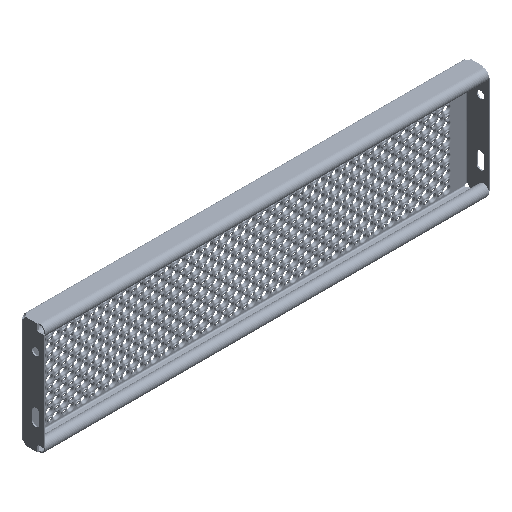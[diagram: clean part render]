
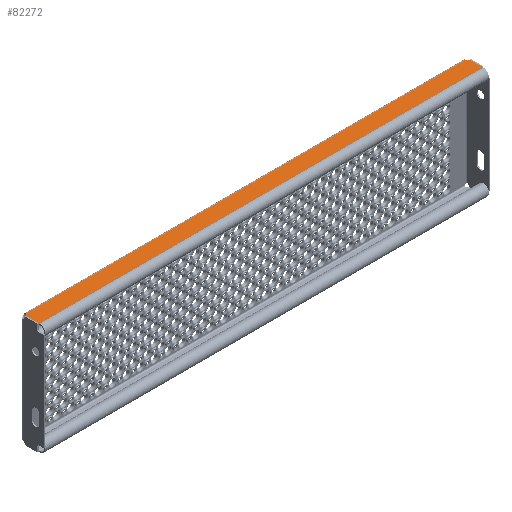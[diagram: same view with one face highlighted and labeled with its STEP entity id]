
A CAD part, isometric view. The second image highlights one B-rep face of the part: STEP entity #82272.
In plain terms, the highlighted planar face has unit normal (0, 0, 1).
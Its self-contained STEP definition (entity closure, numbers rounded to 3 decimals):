
#3785 = DIRECTION ( 'NONE',  ( 0., 0., -1. ) ) ;
#13837 = VECTOR ( 'NONE', #173732, 1000. ) ;
#23989 = CARTESIAN_POINT ( 'NONE',  ( 397.99, -7.185, 100. ) ) ;
#25326 = CARTESIAN_POINT ( 'NONE',  ( -399., -2.288, 100. ) ) ;
#27790 = VERTEX_POINT ( 'NONE', #274040 ) ;
#28004 = VERTEX_POINT ( 'NONE', #222207 ) ;
#29243 = CARTESIAN_POINT ( 'NONE',  ( 397.99, -31.998, 100. ) ) ;
#32747 = EDGE_CURVE ( 'NONE', #27790, #146251, #71563, .T. ) ;
#41721 = CIRCLE ( 'NONE', #128936, 5. ) ;
#51755 = EDGE_CURVE ( 'NONE', #236151, #28004, #41721, .T. ) ;
#68743 = CARTESIAN_POINT ( 'NONE',  ( -397.99, -31.998, 100. ) ) ;
#71563 = LINE ( 'NONE', #68743, #189689 ) ;
#72819 = DIRECTION ( 'NONE',  ( 0., -1., 0. ) ) ;
#75710 = VERTEX_POINT ( 'NONE', #165553 ) ;
#76647 = EDGE_CURVE ( 'NONE', #236151, #230906, #157022, .T. ) ;
#82272 = ADVANCED_FACE ( 'NONE', ( #234265 ), #277271, .T. ) ;
#85039 = AXIS2_PLACEMENT_3D ( 'NONE', #97239, #159094, #72819 ) ;
#94571 = DIRECTION ( 'NONE',  ( 1., 0., 0. ) ) ;
#97239 = CARTESIAN_POINT ( 'NONE',  ( 399., -2.288, 100. ) ) ;
#98326 = CARTESIAN_POINT ( 'NONE',  ( 394.302, -4., 100. ) ) ;
#99345 = ORIENTED_EDGE ( 'NONE', *, *, #32747, .T. ) ;
#100635 = DIRECTION ( 'NONE',  ( 0., -1., 0. ) ) ;
#128936 = AXIS2_PLACEMENT_3D ( 'NONE', #25326, #3785, #268016 ) ;
#133480 = LINE ( 'NONE', #196689, #13837 ) ;
#134613 = DIRECTION ( 'NONE',  ( 0., 1., 0. ) ) ;
#140607 = EDGE_CURVE ( 'NONE', #75710, #230906, #195846, .T. ) ;
#143433 = EDGE_CURVE ( 'NONE', #28004, #27790, #133480, .T. ) ;
#146172 = EDGE_LOOP ( 'NONE', ( #99345, #266707, #224320, #276589, #148626, #237587 ) ) ;
#146251 = VERTEX_POINT ( 'NONE', #29243 ) ;
#146651 = DIRECTION ( 'NONE',  ( 0., 0., 1. ) ) ;
#148626 = ORIENTED_EDGE ( 'NONE', *, *, #51755, .T. ) ;
#155060 = VECTOR ( 'NONE', #134613, 1000. ) ;
#157022 = LINE ( 'NONE', #201517, #184075 ) ;
#159094 = DIRECTION ( 'NONE',  ( 0., 0., -1. ) ) ;
#160896 = AXIS2_PLACEMENT_3D ( 'NONE', #257161, #146651, #100635 ) ;
#165553 = CARTESIAN_POINT ( 'NONE',  ( 397.99, -7.185, 100. ) ) ;
#173732 = DIRECTION ( 'NONE',  ( 0., -1., 0. ) ) ;
#184075 = VECTOR ( 'NONE', #221680, 1000. ) ;
#186331 = CARTESIAN_POINT ( 'NONE',  ( -394.302, -4., 100. ) ) ;
#189689 = VECTOR ( 'NONE', #94571, 1000. ) ;
#195846 = CIRCLE ( 'NONE', #85039, 5. ) ;
#196689 = CARTESIAN_POINT ( 'NONE',  ( -397.99, -7.185, 100. ) ) ;
#201517 = CARTESIAN_POINT ( 'NONE',  ( -399., -4., 100. ) ) ;
#221680 = DIRECTION ( 'NONE',  ( 1., 0., 0. ) ) ;
#222207 = CARTESIAN_POINT ( 'NONE',  ( -397.99, -7.185, 100. ) ) ;
#224320 = ORIENTED_EDGE ( 'NONE', *, *, #140607, .T. ) ;
#230906 = VERTEX_POINT ( 'NONE', #98326 ) ;
#234265 = FACE_OUTER_BOUND ( 'NONE', #146172, .T. ) ;
#236151 = VERTEX_POINT ( 'NONE', #186331 ) ;
#237587 = ORIENTED_EDGE ( 'NONE', *, *, #143433, .T. ) ;
#242364 = LINE ( 'NONE', #23989, #155060 ) ;
#257161 = CARTESIAN_POINT ( 'NONE',  ( -399., 195.712, 100. ) ) ;
#264715 = EDGE_CURVE ( 'NONE', #146251, #75710, #242364, .T. ) ;
#266707 = ORIENTED_EDGE ( 'NONE', *, *, #264715, .T. ) ;
#268016 = DIRECTION ( 'NONE',  ( 0., -1., 0. ) ) ;
#274040 = CARTESIAN_POINT ( 'NONE',  ( -397.99, -31.998, 100. ) ) ;
#276589 = ORIENTED_EDGE ( 'NONE', *, *, #76647, .F. ) ;
#277271 = PLANE ( 'NONE',  #160896 ) ;
